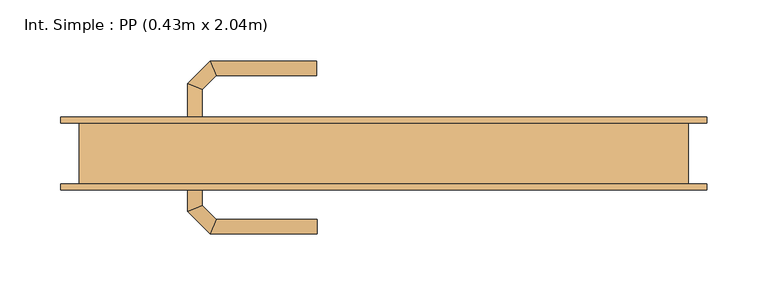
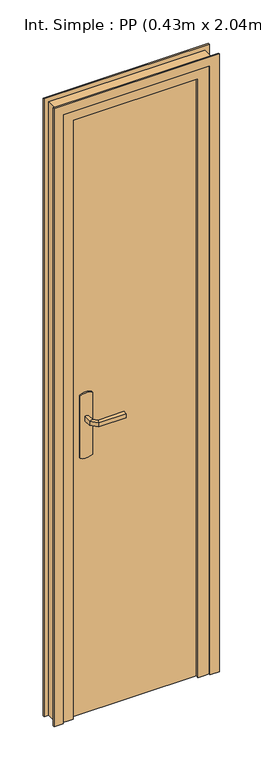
"""IFC4 building model written with IfcOpenShell, lengths in millimetres: door geometry, Int. Simple : PP (0.43m x 2.04m)."""

from ifc_helpers import new_model, si_unit, point, frame, frame_2d, origin, origin_with_axes, place, context, project, spatial, polyline, circle_curve, ellipse_curve, trimmed, segment, composite_curve, outline, extrude, faceted_brep, source, transform, mapped, element, save
from ifc_brep_helpers import plane_surface, cylinder_surface, advanced_brep


def int_simple_pp_0_43m_x_2_04m_1a23c220(model_context):
    return source(origin(), model_context, "Body", "SolidModel", [
        extrude(outline(composite_curve([segment(trimmed(circle_curve(frame_2d((904.6410162, -190.0)), 40.0), [point((870.0, -210.0))], [point((870.0, -170.0))], False, "CARTESIAN"), True, "CONTINUOUS"), segment(polyline([(870.0, -170.0), (1080.0, -170.0)]), True, "CONTINUOUS"), segment(trimmed(circle_curve(frame_2d((1045.3589838, -190.0)), 40.0), [point((1080.0, -170.0))], [point((1080.0, -210.0))], False, "CARTESIAN"), True, "CONTINUOUS"), segment(polyline([(1080.0, -210.0), (870.0, -210.0)]), True, "CONTINUOUS")], self_intersect=False)), frame((0.0, 25.0, 0.0), z_axis=(0.0, 1.0, 0.0), x_axis=(0.0, 0.0, 1.0)), (0.0, 0.0, 1.0), 5.0),
        extrude(outline(composite_curve([segment(trimmed(circle_curve(frame_2d((1045.3589838, -190.0)), 40.0), [point((1080.0, -170.0))], [point((1080.0, -210.0))], False, "CARTESIAN"), True, "CONTINUOUS"), segment(polyline([(1080.0, -210.0), (870.0, -210.0)]), True, "CONTINUOUS"), segment(trimmed(circle_curve(frame_2d((904.6410162, -190.0)), 40.0), [point((870.0, -210.0))], [point((870.0, -170.0))], False, "CARTESIAN"), True, "CONTINUOUS"), segment(polyline([(870.0, -170.0), (1080.0, -170.0)]), True, "CONTINUOUS")], self_intersect=False)), frame((0.0, -20.0, 0.0), z_axis=(0.0, 1.0, 0.0), x_axis=(0.0, 0.0, 1.0)), (0.0, 0.0, 1.0), 5.0),
        advanced_brep(
        [(-196.0, 30.0, 1007.0), (-196.0, 30.0, 993.0), (-184.0, 30.0, 993.0), (-184.0, 30.0, 1007.0), (-184.0, 52.680388, 1007.0), (-196.0, 57.6509507, 1007.0), (-184.0, 52.680388, 993.0), (-196.0, 57.6509507, 993.0), (-172.6522273, 64.0281607, 1007.0), (-177.62279, 76.0281607, 1007.0), (-172.6522273, 64.0281607, 993.0), (-177.62279, 76.0281607, 993.0), (-89.9813594, 76.0281607, 1007.0), (-89.9813594, 64.0281607, 1007.0), (-89.9813594, 64.0281607, 993.0), (-89.9813594, 76.0281607, 993.0)],
        [
            (0, 1),
            (1, 2, circle_curve(frame((-190.0, 30.0, 1013.0457722), z_axis=(0.0, -1.0, 0.0), x_axis=(1.0, 0.0, 0.0)), 20.9244589)),
            (2, 3),
            (3, 0, circle_curve(frame((-190.0, 30.0, 986.9542278), z_axis=(0.0, -1.0, 0.0), x_axis=(1.0, 0.0, 0.0)), 20.9244589)),
            (3, 4),
            (4, 5, ellipse_curve(frame((-190.0, 55.1656693, 986.9542278), z_axis=(-0.3826834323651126, -0.9238795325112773, 0.0), x_axis=(0.9238795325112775, -0.38268343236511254, 0.0)), 22.6484711, 20.9244589)),
            (5, 0),
            (2, 6),
            (6, 4),
            (1, 7),
            (7, 6, ellipse_curve(frame((-190.0, 55.1656693, 1013.0457722), z_axis=(-0.3826834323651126, -0.9238795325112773, 0.0), x_axis=(0.9238795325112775, -0.38268343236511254, 0.0)), 22.6484711, 20.9244589)),
            (5, 7),
            (4, 8),
            (8, 9, ellipse_curve(frame((-175.1375086, 70.0281607, 986.9542278), z_axis=(-0.9238795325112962, -0.38268343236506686, 0.0), x_axis=(0.3826834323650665, -0.9238795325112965, 0.0)), 22.6484711, 20.9244589)),
            (9, 5),
            (6, 10),
            (10, 8),
            (7, 11),
            (11, 10, ellipse_curve(frame((-175.1375086, 70.0281607, 1013.0457722), z_axis=(-0.9238795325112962, -0.38268343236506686, 0.0), x_axis=(0.3826834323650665, -0.9238795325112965, 0.0)), 22.6484711, 20.9244589)),
            (9, 11),
            (12, 13, circle_curve(frame((-89.9813594, 70.0281607, 986.9542278), z_axis=(1.0, 0.0, 0.0), x_axis=(0.0, -1.0, 0.0)), 20.9244589)),
            (13, 14),
            (14, 15, circle_curve(frame((-89.9813594, 70.0281607, 1013.0457722), z_axis=(1.0, 0.0, 0.0), x_axis=(0.0, -1.0, 0.0)), 20.9244589)),
            (15, 12),
            (8, 13),
            (12, 9),
            (10, 14),
            (11, 15),
        ],
        [
            plane_surface(frame((-199.2195445, 30.0, 1000.0), z_axis=(0.0, -1.0, 0.0), x_axis=(0.0, 0.0, -1.0))),
            cylinder_surface(frame((-190.0, 30.0, 986.9542278), z_axis=(0.0, -1.0, 0.0), x_axis=(1.0, 0.0, 0.0)), 20.9244589),
            plane_surface(frame((-184.0, 30.0, 1007.0), z_axis=(1.0, 0.0, 0.0), x_axis=(0.0, 1.0, 0.0))),
            cylinder_surface(frame((-190.0, 30.0, 1013.0457722), z_axis=(0.0, -1.0, 0.0), x_axis=(1.0, 0.0, 0.0)), 20.9244589),
            plane_surface(frame((-196.0, 30.0, 993.0), z_axis=(-1.0, 0.0, 0.0), x_axis=(0.0, 1.0, 0.0))),
            cylinder_surface(frame((-190.0, 55.1656693, 986.9542278), z_axis=(-0.7071067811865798, -0.7071067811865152, 0.0), x_axis=(0.7071067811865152, -0.7071067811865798, 0.0)), 20.9244589),
            plane_surface(frame((-184.0, 52.680388, 1007.0), z_axis=(0.7071067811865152, -0.7071067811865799, 0.0), x_axis=(0.7071067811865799, 0.7071067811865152, 0.0))),
            cylinder_surface(frame((-190.0, 55.1656693, 1013.0457722), z_axis=(-0.7071067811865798, -0.7071067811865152, 0.0), x_axis=(0.7071067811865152, -0.7071067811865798, 0.0)), 20.9244589),
            plane_surface(frame((-196.0, 57.6509507, 993.0), z_axis=(-0.7071067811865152, 0.7071067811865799, 0.0), x_axis=(0.7071067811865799, 0.7071067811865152, 0.0))),
            plane_surface(frame((-89.9813594, 70.0281607, 990.7804555), z_axis=(1.0, 0.0, 0.0), x_axis=(0.0, -1.0, 0.0))),
            cylinder_surface(frame((-175.1375086, 70.0281607, 986.9542278), z_axis=(-1.0, 0.0, 0.0), x_axis=(0.0, -1.0, 0.0)), 20.9244589),
            plane_surface(frame((-172.6522273, 64.0281607, 1007.0), z_axis=(0.0, -1.0, 0.0), x_axis=(1.0, 0.0, 0.0))),
            cylinder_surface(frame((-175.1375086, 70.0281607, 1013.0457722), z_axis=(-1.0, 0.0, 0.0), x_axis=(0.0, -1.0, 0.0)), 20.9244589),
            plane_surface(frame((-177.62279, 76.0281607, 993.0), z_axis=(0.0, 1.0, 0.0), x_axis=(1.0, 0.0, 0.0))),
        ],
        [
            (0, [[1, 2, 3, 4]]),
            (1, [[5, 6, 7, -4]]),
            (2, [[8, 9, -5, -3]]),
            (3, [[10, 11, -8, -2]]),
            (4, [[-7, 12, -10, -1]]),
            (5, [[13, 14, 15, -6]]),
            (6, [[16, 17, -13, -9]]),
            (7, [[18, 19, -16, -11]]),
            (8, [[-15, 20, -18, -12]]),
            (9, [[21, 22, 23, 24]]),
            (10, [[25, -21, 26, -14]]),
            (11, [[27, -22, -25, -17]]),
            (12, [[28, -23, -27, -19]]),
            (13, [[-26, -24, -28, -20]]),
        ],
    ),
        advanced_brep(
        [(-184.0, -20.0, 993.0), (-196.0, -20.0, 993.0), (-196.0, -20.0, 1007.0), (-184.0, -20.0, 1007.0), (-184.0, -42.4852045, 1007.0), (-184.0, -42.4852045, 993.0), (-196.0, -47.4557673, 1007.0), (-196.0, -47.4557673, 993.0), (-172.5147186, -53.9704859, 1007.0), (-172.5147186, -53.9704859, 993.0), (-177.4852814, -65.9704859, 1007.0), (-177.4852814, -65.9704859, 993.0), (-89.9542163, -53.9704859, 993.0), (-89.9542163, -53.9704859, 1007.0), (-89.9542163, -65.9704859, 1007.0), (-89.9542163, -65.9704859, 993.0)],
        [
            (0, 1, circle_curve(frame((-190.0, -20.0, 1013.0457722), z_axis=(0.0, 1.0, 0.0), x_axis=(-1.0, 0.0, 0.0)), 20.9244589)),
            (1, 2),
            (2, 3, circle_curve(frame((-190.0, -20.0, 986.9542278), z_axis=(0.0, 1.0, 0.0), x_axis=(-1.0, 0.0, 0.0)), 20.9244589)),
            (3, 0),
            (3, 4),
            (4, 5),
            (5, 0),
            (2, 6),
            (6, 4, ellipse_curve(frame((-190.0, -44.9704859, 986.9542278), z_axis=(-0.3826834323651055, 0.9238795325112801, 0.0), x_axis=(0.9238795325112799, 0.3826834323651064, 0.0)), 22.6484711, 20.9244589)),
            (1, 7),
            (7, 6),
            (5, 7, ellipse_curve(frame((-190.0, -44.9704859, 1013.0457722), z_axis=(-0.3826834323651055, 0.9238795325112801, 0.0), x_axis=(0.9238795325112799, 0.3826834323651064, 0.0)), 22.6484711, 20.9244589)),
            (4, 8),
            (8, 9),
            (9, 5),
            (6, 10),
            (10, 8, ellipse_curve(frame((-175.0, -59.9704859, 986.9542278), z_axis=(-0.9238795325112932, 0.382683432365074, 0.0), x_axis=(0.3826834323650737, 0.9238795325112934, 0.0)), 22.6484711, 20.9244589)),
            (7, 11),
            (11, 10),
            (9, 11, ellipse_curve(frame((-175.0, -59.9704859, 1013.0457722), z_axis=(-0.9238795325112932, 0.382683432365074, 0.0), x_axis=(0.3826834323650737, 0.9238795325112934, 0.0)), 22.6484711, 20.9244589)),
            (12, 13),
            (13, 14, circle_curve(frame((-89.9542163, -59.9704859, 986.9542278), z_axis=(1.0, 0.0, 0.0), x_axis=(0.0, -1.0, 0.0)), 20.9244589)),
            (14, 15),
            (15, 12, circle_curve(frame((-89.9542163, -59.9704859, 1013.0457722), z_axis=(1.0, 0.0, 0.0), x_axis=(0.0, -1.0, 0.0)), 20.9244589)),
            (8, 13),
            (12, 9),
            (10, 14),
            (11, 15),
        ],
        [
            plane_surface(frame((-199.2195445, -20.0, 1000.0), z_axis=(0.0, 1.0, 0.0), x_axis=(0.0, 0.0, 1.0))),
            plane_surface(frame((-184.0, -20.0, 993.0), z_axis=(1.0, 0.0, 0.0), x_axis=(0.0, -1.0, 0.0))),
            cylinder_surface(frame((-190.0, -20.0, 986.9542278), z_axis=(0.0, 1.0, 0.0), x_axis=(-1.0, 0.0, 0.0)), 20.9244589),
            plane_surface(frame((-196.0, -20.0, 1007.0), z_axis=(-1.0, 0.0, 0.0), x_axis=(0.0, -1.0, 0.0))),
            cylinder_surface(frame((-190.0, -20.0, 1013.0457722), z_axis=(0.0, 1.0, 0.0), x_axis=(-1.0, 0.0, 0.0)), 20.9244589),
            plane_surface(frame((-184.0, -42.4852045, 993.0), z_axis=(0.7071067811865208, 0.7071067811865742, 0.0), x_axis=(0.7071067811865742, -0.7071067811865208, 0.0))),
            cylinder_surface(frame((-190.0, -44.9704859, 986.9542278), z_axis=(-0.7071067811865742, 0.7071067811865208, 0.0), x_axis=(-0.7071067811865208, -0.7071067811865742, 0.0)), 20.9244589),
            plane_surface(frame((-196.0, -47.4557673, 1007.0), z_axis=(-0.7071067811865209, -0.7071067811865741, 0.0), x_axis=(0.7071067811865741, -0.7071067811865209, 0.0))),
            cylinder_surface(frame((-190.0, -44.9704859, 1013.0457722), z_axis=(-0.7071067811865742, 0.7071067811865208, 0.0), x_axis=(-0.7071067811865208, -0.7071067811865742, 0.0)), 20.9244589),
            plane_surface(frame((-89.9542163, -59.9704859, 990.7804555), z_axis=(1.0, 0.0, 0.0), x_axis=(0.0, -1.0, 0.0))),
            plane_surface(frame((-172.5147186, -53.9704859, 993.0), z_axis=(0.0, 1.0, 0.0), x_axis=(1.0, 0.0, 0.0))),
            cylinder_surface(frame((-175.0, -59.9704859, 986.9542278), z_axis=(-1.0, 0.0, 0.0), x_axis=(0.0, -1.0, 0.0)), 20.9244589),
            plane_surface(frame((-177.4852814, -65.9704859, 1007.0), z_axis=(0.0, -1.0, 0.0), x_axis=(1.0, 0.0, 0.0))),
            cylinder_surface(frame((-175.0, -59.9704859, 1013.0457722), z_axis=(-1.0, 0.0, 0.0), x_axis=(0.0, -1.0, 0.0)), 20.9244589),
        ],
        [
            (0, [[1, 2, 3, 4]]),
            (1, [[5, 6, 7, -4]]),
            (2, [[8, 9, -5, -3]]),
            (3, [[10, 11, -8, -2]]),
            (4, [[-7, 12, -10, -1]]),
            (5, [[13, 14, 15, -6]]),
            (6, [[16, 17, -13, -9]]),
            (7, [[18, 19, -16, -11]]),
            (8, [[-15, 20, -18, -12]]),
            (9, [[21, 22, 23, 24]]),
            (10, [[25, -21, 26, -14]]),
            (11, [[27, -22, -25, -17]]),
            (12, [[28, -23, -27, -19]]),
            (13, [[-26, -24, -28, -20]]),
        ],
    ),
        extrude(outline(polyline([(-250.0, -15.0), (-250.0, 25.0), (180.0, 25.0), (180.0, -15.0), (-250.0, -15.0)])), origin_with_axes(), (0.0, 0.0, 1.0), 2040.0),
        faceted_brep([(-285.0, 25.0, 0.0), (-250.0, 25.0, 0.0), (-250.0, -15.0, 0.0), (-235.0, -15.0, 0.0), (-235.0, -25.0, 0.0), (-285.0, -25.0, 0.0), (-285.0, -25.0, 2075.0), (-285.0, 25.0, 2075.0), (-235.0, -25.0, 2025.0), (165.0, -25.0, 2025.0), (165.0, -25.0, 0.0), (215.0, -25.0, 0.0), (215.0, -25.0, 2075.0), (-235.0, -15.0, 2025.0), (-250.0, -15.0, 2040.0), (180.0, -15.0, 2040.0), (180.0, -15.0, 0.0), (165.0, -15.0, 0.0), (165.0, -15.0, 2025.0), (-250.0, 25.0, 2040.0), (215.0, 25.0, 2075.0), (215.0, 25.0, 0.0), (180.0, 25.0, 0.0), (180.0, 25.0, 2040.0)], [[[0, 1, 2, 3, 4, 5]], [[5, 6, 7, 0]], [[4, 8, 9, 10, 11, 12, 6, 5]], [[3, 13, 8, 4]], [[2, 14, 15, 16, 17, 18, 13, 3]], [[1, 19, 14, 2]], [[0, 7, 20, 21, 22, 23, 19, 1]], [[12, 11, 21, 20]], [[21, 11, 10, 17, 16, 22]], [[18, 17, 10, 9]], [[23, 22, 16, 15]], [[6, 12, 20, 7]], [[13, 18, 9, 8]], [[19, 23, 15, 14]]]),
        extrude(outline(polyline([(0.0, -270.0), (2060.0, -270.0), (2060.0, 200.0), (0.0, 200.0), (0.0, 230.0), (2090.0, 230.0), (2090.0, -300.0), (0.0, -300.0), (0.0, -270.0)])), frame((0.0, 25.0, 0.0), z_axis=(0.0, 1.0, 0.0), x_axis=(0.0, 0.0, 1.0)), (0.0, 0.0, 1.0), 5.0),
        extrude(outline(polyline([(0.0, -270.0), (2060.0, -270.0), (2060.0, 200.0), (0.0, 200.0), (0.0, 230.0), (2090.0, 230.0), (2090.0, -300.0), (0.0, -300.0), (0.0, -270.0)])), frame((0.0, -30.0, 0.0), z_axis=(0.0, 1.0, 0.0), x_axis=(0.0, 0.0, 1.0)), (0.0, 0.0, 1.0), 5.0),
    ])


if __name__ == "__main__":
    model = new_model("IFC4")
    model_context = context("Model", 3, world=origin())
    ifc_project = project(units=[si_unit("LENGTHUNIT", "METRE", prefix="MILLI")], contexts=[model_context])
    site = spatial("IfcSite", under=ifc_project)
    building = spatial("IfcBuilding", under=site)
    placement = place(None, origin())
    int_simple_pp_0_43m_x_2_04m_shape = int_simple_pp_0_43m_x_2_04m_1a23c220(model_context)
    element("IfcDoor", 1, ObjectType="Int. Simple : PP (0.43m x 2.04m)", at=placement, inside=building, context=model_context, shape_type="MappedRepresentation", body=[
        mapped(int_simple_pp_0_43m_x_2_04m_shape, transform((0.0, 0.0, 0.0), x_axis=(1.0, 0.0, 0.0), y_axis=(0.0, 1.0, 0.0), z_axis=(0.0, 0.0, 1.0))),
    ])
    save(model, "model.ifc")
